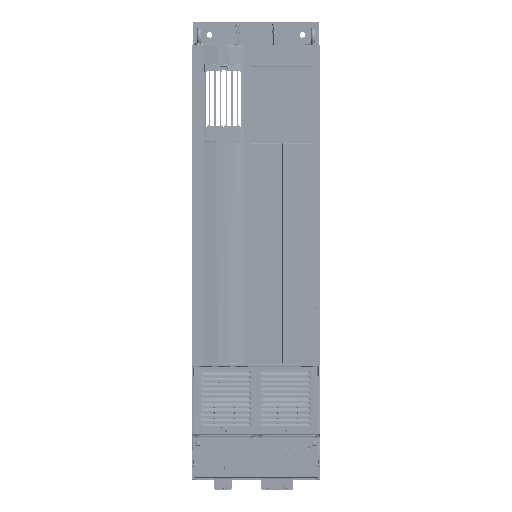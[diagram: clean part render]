
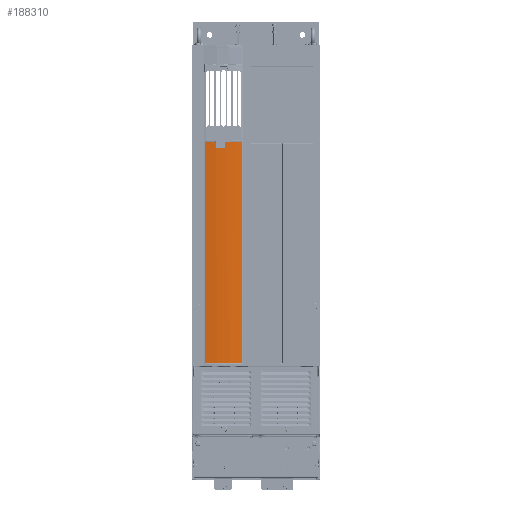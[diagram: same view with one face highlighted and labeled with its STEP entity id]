
A CAD part, top view. The second image highlights one B-rep face of the part: STEP entity #188310.
In plain terms, the highlighted cylindrical face has radius 279.6 mm (diameter 559.2 mm), a partial arc.
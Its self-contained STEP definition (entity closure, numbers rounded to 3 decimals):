
#179457=CARTESIAN_POINT('',(-60.731,9.588,-184.129));
#181202=CARTESIAN_POINT('',(-48.07,9.186,-184.129));
#181203=CARTESIAN_POINT('',(-49.476,9.262,
-184.128));
#181204=CARTESIAN_POINT('',(-52.288,9.394,
-184.129));
#181205=CARTESIAN_POINT('',(-56.509,9.528,
-184.129));
#181206=CARTESIAN_POINT('',(-59.324,9.575,-184.129));
#181207=CARTESIAN_POINT('',(-60.731,9.588,-184.129));
#181212=CARTESIAN_POINT('',(-63.287,-270.,-184.129));
#181213=DIRECTION('',(0.,0.,1.));
#181214=DIRECTION('',(0.125,0.992,0.));
#181215=AXIS2_PLACEMENT_3D('',#181212,#181213,#181214);
#181220=CARTESIAN_POINT('',(-28.235,7.394,-184.129));
#181221=CARTESIAN_POINT('',(-28.21,7.391,
-184.129));
#181222=CARTESIAN_POINT('',(-28.161,7.385,
-184.12));
#181223=CARTESIAN_POINT('',(-28.087,7.375,
-184.08));
#181224=CARTESIAN_POINT('',(-28.031,7.368,
-184.006));
#181225=CARTESIAN_POINT('',(-28.015,7.366,
-183.944));
#181226=CARTESIAN_POINT('',(-28.015,7.366,-183.909));
#181231=DIRECTION('',(0.,0.,1.));
#181232=VECTOR('',#181231,430.209);
#181233=CARTESIAN_POINT('',(-28.015,7.366,-183.909));
#181234=LINE('',#181233,#181232);
#181238=CARTESIAN_POINT('',(-28.015,7.366,246.3));
#181239=CARTESIAN_POINT('',(-28.015,7.366,
246.325));
#181240=CARTESIAN_POINT('',(-28.023,7.367,
246.374));
#181241=CARTESIAN_POINT('',(-28.064,7.372,
246.448));
#181242=CARTESIAN_POINT('',(-28.138,7.382,
246.504));
#181243=CARTESIAN_POINT('',(-28.2,7.39,
246.52));
#181244=CARTESIAN_POINT('',(-28.235,7.394,246.52));
#181249=CARTESIAN_POINT('',(-63.287,-270.,246.52));
#181250=DIRECTION('',(0.,0.,1.));
#181251=DIRECTION('',(0.125,0.992,0.));
#181252=AXIS2_PLACEMENT_3D('',#181249,#181250,#181251);
#181257=CARTESIAN_POINT('',(-98.34,7.394,246.52));
#181258=CARTESIAN_POINT('',(-98.365,7.391,
246.52));
#181259=CARTESIAN_POINT('',(-98.414,7.385,
246.512));
#181260=CARTESIAN_POINT('',(-98.488,7.375,
246.47));
#181261=CARTESIAN_POINT('',(-98.544,7.368,
246.397));
#181262=CARTESIAN_POINT('',(-98.559,7.366,
246.335));
#181263=CARTESIAN_POINT('',(-98.559,7.366,246.3));
#181268=DIRECTION('',(0.,0.,-1.));
#181269=VECTOR('',#181268,430.209);
#181270=CARTESIAN_POINT('',(-98.559,7.366,246.3));
#181271=LINE('',#181270,#181269);
#181275=CARTESIAN_POINT('',(-98.559,7.366,-183.909));
#181276=CARTESIAN_POINT('',(-98.559,7.366,
-183.934));
#181277=CARTESIAN_POINT('',(-98.551,7.367,
-183.983));
#181278=CARTESIAN_POINT('',(-98.51,7.373,
-184.057));
#181279=CARTESIAN_POINT('',(-98.436,7.382,
-184.113));
#181280=CARTESIAN_POINT('',(-98.374,7.39,
-184.129));
#181281=CARTESIAN_POINT('',(-98.34,7.394,-184.129));
#181286=CARTESIAN_POINT('',(-63.287,-270.,-184.129));
#181287=DIRECTION('',(0.,0.,1.));
#181288=DIRECTION('',(-0.055,0.999,0.));
#181289=AXIS2_PLACEMENT_3D('',#181286,#181287,#181288);
#181294=DIRECTION('',(0.,0.,1.));
#181295=VECTOR('',#181294,13.433);
#181296=CARTESIAN_POINT('',(-78.55,9.183,-184.129));
#181297=LINE('',#181296,#181295);
#181301=CARTESIAN_POINT('',(-60.731,9.588,
-170.702));
#181302=CARTESIAN_POINT('',(-66.675,9.643,
-170.703));
#181303=CARTESIAN_POINT('',(-72.615,9.508,
-170.701));
#181304=CARTESIAN_POINT('',(-78.55,9.183,
-170.695));
#181309=DIRECTION('',(0.,0.,1.));
#181310=VECTOR('',#181309,13.426);
#181311=CARTESIAN_POINT('',(-60.731,9.588,-184.129));
#181312=LINE('',#181311,#181310);
#181321=CARTESIAN_POINT('',(-48.07,9.186,-184.129));
#185357=VERTEX_POINT('',#181220);
#185358=VERTEX_POINT('',#181226);
#185359=CARTESIAN_POINT('',(-28.015,7.366,246.3));
#185360=VERTEX_POINT('',#185359);
#185361=VERTEX_POINT('',#181244);
#185362=CARTESIAN_POINT('',(-98.34,7.394,246.52));
#185363=VERTEX_POINT('',#185362);
#185364=VERTEX_POINT('',#181263);
#185365=CARTESIAN_POINT('',(-98.559,7.366,-183.909));
#185366=VERTEX_POINT('',#185365);
#185367=VERTEX_POINT('',#181281);
#185390=VERTEX_POINT('',#181301);
#185391=VERTEX_POINT('',#181304);
#185396=CARTESIAN_POINT('',(-78.55,9.183,-184.129));
#185397=VERTEX_POINT('',#185396);
#185400=VERTEX_POINT('',#179457);
#185404=VERTEX_POINT('',#181321);
#188282=CARTESIAN_POINT('',(-63.287,-270.,-184.509));
#188283=DIRECTION('',(0.,0.,1.));
#188284=DIRECTION('',(1.,0.,0.));
#188285=AXIS2_PLACEMENT_3D('',#188282,#188283,#188284);
#188286=CYLINDRICAL_SURFACE('',#188285,279.6);
#188287=ORIENTED_EDGE('',*,*,#186943,.F.);
#188289=ORIENTED_EDGE('',*,*,#188288,.F.);
#188291=ORIENTED_EDGE('',*,*,#188290,.T.);
#188293=ORIENTED_EDGE('',*,*,#188292,.T.);
#188295=ORIENTED_EDGE('',*,*,#188294,.T.);
#188297=ORIENTED_EDGE('',*,*,#188296,.T.);
#188299=ORIENTED_EDGE('',*,*,#188298,.T.);
#188301=ORIENTED_EDGE('',*,*,#188300,.T.);
#188303=ORIENTED_EDGE('',*,*,#188302,.T.);
#188304=ORIENTED_EDGE('',*,*,#188275,.F.);
#188305=ORIENTED_EDGE('',*,*,#186891,.T.);
#188306=ORIENTED_EDGE('',*,*,#186911,.F.);
#188307=ORIENTED_EDGE('',*,*,#186923,.F.);
#188308=EDGE_LOOP('',(#188287,#188289,#188291,#188293,#188295,#188297,#188299,
#188301,#188303,#188304,#188305,#188306,#188307));
#188309=FACE_OUTER_BOUND('',#188308,.F.);
#188310=ADVANCED_FACE('',(#188309),#188286,.T.);
#181208=B_SPLINE_CURVE_WITH_KNOTS('',3,(#181202,#181203,#181204,#181205,#181206,
#181207),.UNSPECIFIED.,.F.,.F.,(4,1,1,4),(0.,0.333,
0.667,1.),.UNSPECIFIED.);
#181216=CIRCLE('',#181215,279.6);
#181227=B_SPLINE_CURVE_WITH_KNOTS('',3,(#181220,#181221,#181222,#181223,#181224,
#181225,#181226),.UNSPECIFIED.,.F.,.F.,(4,1,1,1,4),(0.,0.25,0.5,0.75,
1.),.UNSPECIFIED.);
#181245=B_SPLINE_CURVE_WITH_KNOTS('',3,(#181238,#181239,#181240,#181241,#181242,
#181243,#181244),.UNSPECIFIED.,.F.,.F.,(4,1,1,1,4),(0.,0.25,0.5,0.75,
1.),.UNSPECIFIED.);
#181253=CIRCLE('',#181252,279.6);
#181264=B_SPLINE_CURVE_WITH_KNOTS('',3,(#181257,#181258,#181259,#181260,#181261,
#181262,#181263),.UNSPECIFIED.,.F.,.F.,(4,1,1,1,4),(0.,0.25,0.5,0.75,
1.),.UNSPECIFIED.);
#181282=B_SPLINE_CURVE_WITH_KNOTS('',3,(#181275,#181276,#181277,#181278,#181279,
#181280,#181281),.UNSPECIFIED.,.F.,.F.,(4,1,1,1,4),(0.,0.25,0.5,0.75,
1.),.UNSPECIFIED.);
#181290=CIRCLE('',#181289,279.6);
#181305=B_SPLINE_CURVE_WITH_KNOTS('',3,(#181301,#181302,#181303,#181304),
.UNSPECIFIED.,.F.,.F.,(4,4),(0.,1.),.UNSPECIFIED.);
#186891=EDGE_CURVE('',#185397,#185391,#181297,.T.);
#186911=EDGE_CURVE('',#185390,#185391,#181305,.T.);
#186923=EDGE_CURVE('',#185400,#185390,#181312,.T.);
#186943=EDGE_CURVE('',#185404,#185400,#181208,.T.);
#188275=EDGE_CURVE('',#185397,#185367,#181290,.T.);
#188288=EDGE_CURVE('',#185357,#185404,#181216,.T.);
#188290=EDGE_CURVE('',#185357,#185358,#181227,.T.);
#188292=EDGE_CURVE('',#185358,#185360,#181234,.T.);
#188294=EDGE_CURVE('',#185360,#185361,#181245,.T.);
#188296=EDGE_CURVE('',#185361,#185363,#181253,.T.);
#188298=EDGE_CURVE('',#185363,#185364,#181264,.T.);
#188300=EDGE_CURVE('',#185364,#185366,#181271,.T.);
#188302=EDGE_CURVE('',#185366,#185367,#181282,.T.);
